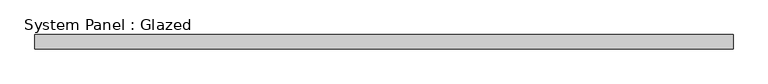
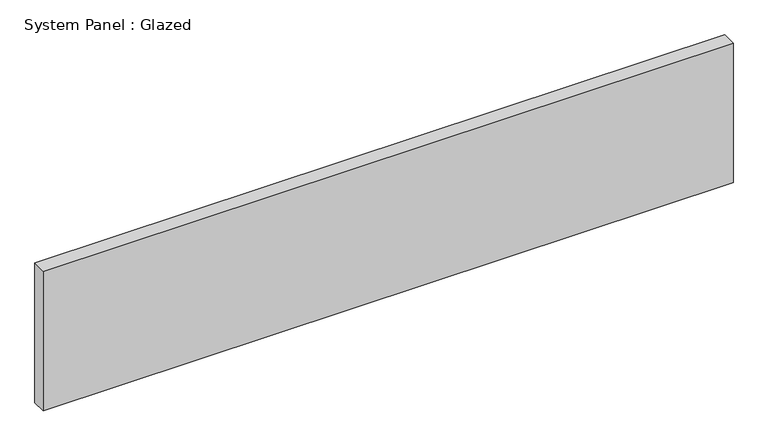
"""IFC4 building model written with IfcOpenShell, lengths in millimetres: plate geometry, System Panel : Glazed."""

from ifc_helpers import new_model, si_unit, origin, origin_with_axes, place, context, project, spatial, polyline, outline, extrude, source, transform, mapped, element, save


def system_panel_glazed_f2c8e767(model_context):
    return source(origin(), model_context, "Body", "SweptSolid", [
        extrude(outline(polyline([(607.0663959, 24.5), (-607.0663959, 24.5), (-607.0663959, 49.5), (607.0663959, 49.5), (607.0663959, 24.5)])), origin_with_axes(), (0.0, 0.0, 1.0), 260.0),
    ])


if __name__ == "__main__":
    model = new_model("IFC4")
    model_context = context("Model", 3, world=origin())
    ifc_project = project(units=[si_unit("LENGTHUNIT", "METRE", prefix="MILLI")], contexts=[model_context])
    site = spatial("IfcSite", under=ifc_project)
    building = spatial("IfcBuilding", under=site)
    placement = place(None, origin())
    system_panel_glazed_shape = system_panel_glazed_f2c8e767(model_context)
    element("IfcPlate", 1, ObjectType="System Panel : Glazed", at=placement, inside=building, context=model_context, shape_type="MappedRepresentation", body=[
        mapped(system_panel_glazed_shape, transform((0.0, 0.0, 0.0), x_axis=(1.0, 0.0, 0.0), y_axis=(0.0, 1.0, 0.0), z_axis=(0.0, 0.0, 1.0))),
    ])
    save(model, "model.ifc")
